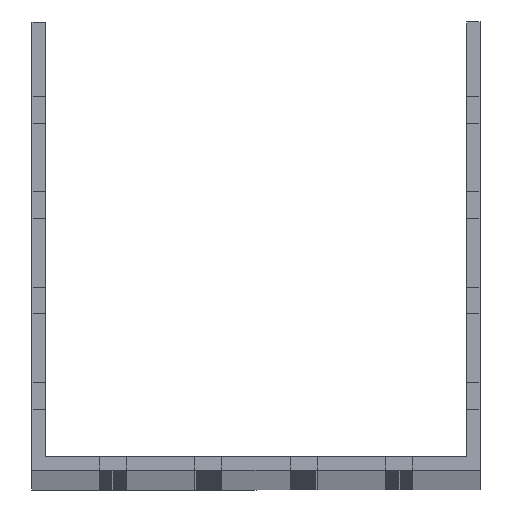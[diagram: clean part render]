
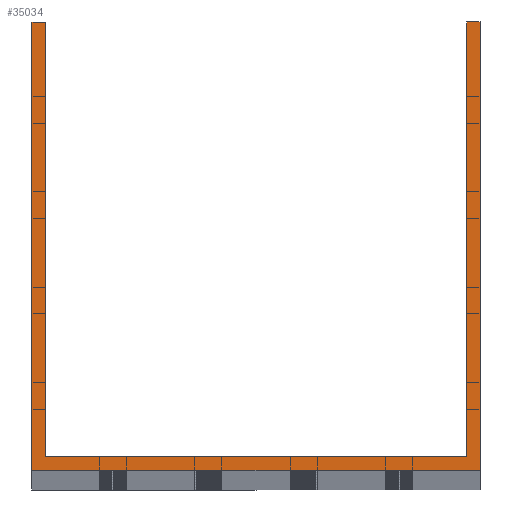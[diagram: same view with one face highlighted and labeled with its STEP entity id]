
A CAD part, top view. The second image highlights one B-rep face of the part: STEP entity #35034.
In plain terms, the highlighted planar face has unit normal (0, 0, 1).
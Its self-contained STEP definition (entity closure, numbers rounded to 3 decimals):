
#2377 = ORIENTED_EDGE ( 'NONE', *, *, #67641, .T. ) ;
#5132 = LINE ( 'NONE', #87825, #47527 ) ;
#5666 = VERTEX_POINT ( 'NONE', #97091 ) ;
#6837 = LINE ( 'NONE', #22934, #46344 ) ;
#6865 = ORIENTED_EDGE ( 'NONE', *, *, #17182, .T. ) ;
#7001 = FACE_OUTER_BOUND ( 'NONE', #102689, .T. ) ;
#7575 = VECTOR ( 'NONE', #53081, 1000. ) ;
#14633 = DIRECTION ( 'NONE',  ( 0., 1., 0. ) ) ;
#17182 = EDGE_CURVE ( 'NONE', #69599, #29957, #107224, .T. ) ;
#17760 = VECTOR ( 'NONE', #49496, 1000. ) ;
#22934 = CARTESIAN_POINT ( 'NONE',  ( -58.75, 3.5, 1500. ) ) ;
#23410 = CARTESIAN_POINT ( 'NONE',  ( -58.75, 0., 1500. ) ) ;
#25549 = VERTEX_POINT ( 'NONE', #71872 ) ;
#26042 = CARTESIAN_POINT ( 'NONE',  ( 0., 0., 1500. ) ) ;
#26545 = ORIENTED_EDGE ( 'NONE', *, *, #59911, .F. ) ;
#29065 = CARTESIAN_POINT ( 'NONE',  ( -55.25, 117.5, 1500. ) ) ;
#29957 = VERTEX_POINT ( 'NONE', #50406 ) ;
#30513 = VERTEX_POINT ( 'NONE', #76515 ) ;
#31732 = VECTOR ( 'NONE', #65345, 1000. ) ;
#31756 = LINE ( 'NONE', #23410, #72158 ) ;
#34378 = DIRECTION ( 'NONE',  ( 1., 0., 0. ) ) ;
#35034 = ADVANCED_FACE ( 'NONE', ( #7001 ), #43306, .T. ) ;
#43306 = PLANE ( 'NONE',  #63843 ) ;
#46344 = VECTOR ( 'NONE', #115139, 1000. ) ;
#46892 = ORIENTED_EDGE ( 'NONE', *, *, #50659, .T. ) ;
#47253 = ORIENTED_EDGE ( 'NONE', *, *, #64513, .T. ) ;
#47511 = LINE ( 'NONE', #29065, #31732 ) ;
#47527 = VECTOR ( 'NONE', #14633, 1000. ) ;
#48956 = CARTESIAN_POINT ( 'NONE',  ( -55.25, 117.5, 1500. ) ) ;
#49496 = DIRECTION ( 'NONE',  ( 0., 1., 0. ) ) ;
#49691 = ORIENTED_EDGE ( 'NONE', *, *, #115320, .T. ) ;
#50406 = CARTESIAN_POINT ( 'NONE',  ( -58.75, 0., 1500. ) ) ;
#50659 = EDGE_CURVE ( 'NONE', #25549, #30513, #81833, .T. ) ;
#53081 = DIRECTION ( 'NONE',  ( 0., -1., 0. ) ) ;
#54141 = VERTEX_POINT ( 'NONE', #68102 ) ;
#55075 = CARTESIAN_POINT ( 'NONE',  ( -55.25, 3.5, 1500. ) ) ;
#58135 = CARTESIAN_POINT ( 'NONE',  ( -58.75, 117.5, 1500. ) ) ;
#59911 = EDGE_CURVE ( 'NONE', #101582, #5666, #6837, .T. ) ;
#60092 = ORIENTED_EDGE ( 'NONE', *, *, #64727, .F. ) ;
#62255 = VECTOR ( 'NONE', #93105, 1000. ) ;
#63843 = AXIS2_PLACEMENT_3D ( 'NONE', #26042, #115899, #34378 ) ;
#64513 = EDGE_CURVE ( 'NONE', #99707, #69599, #80258, .T. ) ;
#64727 = EDGE_CURVE ( 'NONE', #99707, #101582, #47511, .T. ) ;
#65345 = DIRECTION ( 'NONE',  ( 0., -1., 0. ) ) ;
#65720 = CARTESIAN_POINT ( 'NONE',  ( -58.75, 117.5, 1500. ) ) ;
#67641 = EDGE_CURVE ( 'NONE', #29957, #54141, #31756, .T. ) ;
#68102 = CARTESIAN_POINT ( 'NONE',  ( 58.75, 0., 1500. ) ) ;
#68397 = ORIENTED_EDGE ( 'NONE', *, *, #89576, .F. ) ;
#69599 = VERTEX_POINT ( 'NONE', #58135 ) ;
#71515 = CARTESIAN_POINT ( 'NONE',  ( -58.75, 117.5, 1500. ) ) ;
#71872 = CARTESIAN_POINT ( 'NONE',  ( 58.75, 117.5, 1500. ) ) ;
#72158 = VECTOR ( 'NONE', #102607, 1000. ) ;
#76515 = CARTESIAN_POINT ( 'NONE',  ( 55.25, 117.5, 1500. ) ) ;
#80258 = LINE ( 'NONE', #108243, #86867 ) ;
#81833 = LINE ( 'NONE', #65720, #62255 ) ;
#86867 = VECTOR ( 'NONE', #90983, 1000. ) ;
#87825 = CARTESIAN_POINT ( 'NONE',  ( 58.75, 117.5, 1500. ) ) ;
#89576 = EDGE_CURVE ( 'NONE', #5666, #30513, #114915, .T. ) ;
#90983 = DIRECTION ( 'NONE',  ( -1., 0., 0. ) ) ;
#93105 = DIRECTION ( 'NONE',  ( -1., 0., 0. ) ) ;
#97068 = CARTESIAN_POINT ( 'NONE',  ( 55.25, 117.5, 1500. ) ) ;
#97091 = CARTESIAN_POINT ( 'NONE',  ( 55.25, 3.5, 1500. ) ) ;
#99707 = VERTEX_POINT ( 'NONE', #48956 ) ;
#101582 = VERTEX_POINT ( 'NONE', #55075 ) ;
#102607 = DIRECTION ( 'NONE',  ( 1., 0., 0. ) ) ;
#102689 = EDGE_LOOP ( 'NONE', ( #60092, #47253, #6865, #2377, #49691, #46892, #68397, #26545 ) ) ;
#107224 = LINE ( 'NONE', #71515, #7575 ) ;
#108243 = CARTESIAN_POINT ( 'NONE',  ( -58.75, 117.5, 1500. ) ) ;
#114915 = LINE ( 'NONE', #97068, #17760 ) ;
#115139 = DIRECTION ( 'NONE',  ( 1., 0., 0. ) ) ;
#115320 = EDGE_CURVE ( 'NONE', #54141, #25549, #5132, .T. ) ;
#115899 = DIRECTION ( 'NONE',  ( 0., 0., 1. ) ) ;
